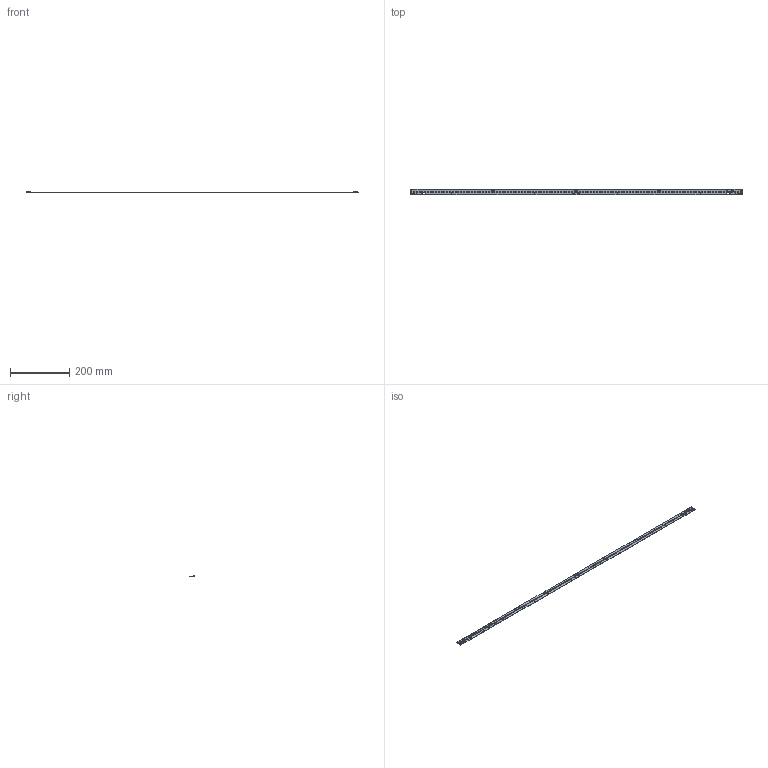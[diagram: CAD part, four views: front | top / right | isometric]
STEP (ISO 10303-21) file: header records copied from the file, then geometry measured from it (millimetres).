
FILE_DESCRIPTION(('Creo Elements/Direct Modeling STEP Export'),'2;1');
FILE_NAME('3D-Model_WU-M-708-TC-B2B.stp','2023-03-28T14:51:52',(''),(''),'PTC Creo Elements/Direct Modeling STEP processor for AP214 (Solid Model)','PTC Creo Elements/Direct Modeling 19.0E 27-Jun-2016 (C) Parametric Technology GmbH','');
FILE_SCHEMA(('AUTOMOTIVE_DESIGN { 1 0 10303 214 1 1 1 1 }'));
Length unit declared in the file: millimetre
Products named in the file (383): CON02_PRT_6.PRT.6; CON02_PRT_6_1.PRT; CONE0101_ASM.ASM; LED-DIODA_-1295330_PRT.PRT; LED-DIODA_-1329870_ASM.ASM; LED-DIODA__10_ASM.ASM; LED-DIODA__100_ASM.ASM; LED-DIODA__101_ASM.ASM; LED-DIODA__102_ASM.ASM; LED-DIODA__103_ASM.ASM; LED-DIODA__104_ASM.ASM; LED-DIODA__105_ASM.ASM; LED-DIODA__106_ASM.ASM; LED-DIODA__107_ASM.ASM; LED-DIODA__108_ASM.ASM; LED-DIODA__109_ASM.ASM; LED-DIODA__11_ASM.ASM; LED-DIODA__110_ASM.ASM; LED-DIODA__111_ASM.ASM; LED-DIODA__112_ASM.ASM; LED-DIODA__113_ASM.ASM; LED-DIODA__114_ASM.ASM; LED-DIODA__115_ASM.ASM; LED-DIODA__116_ASM.ASM; LED-DIODA__117_ASM.ASM; LED-DIODA__118_ASM.ASM; LED-DIODA__119_ASM.ASM; LED-DIODA__12_ASM.ASM; LED-DIODA__120_ASM.ASM; LED-DIODA__13_ASM.ASM; LED-DIODA__14_ASM.ASM; LED-DIODA__15_ASM.ASM; LED-DIODA__16_ASM.ASM; LED-DIODA__17_ASM.ASM; LED-DIODA__18_ASM.ASM; LED-DIODA__19_ASM.ASM; LED-DIODA__2_ASM.ASM; LED-DIODA__20_ASM.ASM; LED-DIODA__21_ASM.ASM; LED-DIODA__22_ASM.ASM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
Assembly tree (501 placements, depth 4):
  3D-MODEL_WU-M-708-TC_-_COPY.stp
    3D-MODEL_WU-M-708-TC_STP.ASM
      P1_PRT.PRT
      PLATE_BASE_WU-M-708_99-7330_ASM.ASM
        PLATE_BASE_WU-M-708_99-6830_PRT.PRT
      PLATE_BASE_WU-M-708_98-12430_AS.ASM
        PLATE_BASE_WU-M-708_98-11980_PR.PRT
      PLATE_BASE_WU-M-708_97-17920_AS.ASM
        PLATE_BASE_WU-M-708_97-17460_PR.PRT
      PLATE_BASE_WU-M-708_96-23330_AS.ASM
        PLATE_BASE_WU-M-708_96-22870_PR.PRT
      PLATE_BASE_WU-M-708_95-35950_AS.ASM
        PLATE_BASE_WU-M-708_95-35320_PR.PRT
      PLATE_BASE_WU-M-708_94-46050_AS.ASM
        PLATE_BASE_WU-M-708_94-45480_PR.PRT
      PLATE_BASE_WU-M-708_93-57400_AS.ASM
        PLATE_BASE_WU-M-708_93-56800_PR.PRT
      PLATE_BASE_WU-M-708_92-66250_AS.ASM
        PLATE_BASE_WU-M-708_92-65710_PR.PRT
      PLATE_BASE_WU-M-708_91-76350_AS.ASM
        PLATE_BASE_WU-M-708_91-75780_PR.PRT
      PLATE_BASE_WU-M-708_90-82680_AS.ASM
        PLATE_BASE_WU-M-708_90-82200_PR.PRT
      PLATE_BASE_WU-M-708_9-95300_ASM.ASM
        PLATE_BASE_WU-M-708_9-94670_PRT.PRT
      PLATE_BASE_WU-M-708_89-101120_A.ASM
        PLATE_BASE_WU-M-708_89-100650_P.PRT
      PLATE_BASE_WU-M-708_88-120060_A.ASM
        PLATE_BASE_WU-M-708_88-119270_P.PRT
      PLATE_BASE_WU-M-708_87-127250_A.ASM
        PLATE_BASE_WU-M-708_87-126750_P.PRT
      PLATE_BASE_WU-M-708_86-138210_A.ASM
        PLATE_BASE_WU-M-708_86-137620_P.PRT
      PLATE_BASE_WU-M-708_85-144540_A.ASM
        PLATE_BASE_WU-M-708_85-144060_P.PRT
      PLATE_BASE_WU-M-708_84-152120_A.ASM
        PLATE_BASE_WU-M-708_84-151610_P.PRT
      PLATE_BASE_WU-M-708_83-156380_A.ASM
        PLATE_BASE_WU-M-708_83-155950_P.PRT
      PLATE_BASE_WU-M-708_82-163960_A.ASM
        PLATE_BASE_WU-M-708_82-163450_P.PRT
      PLATE_BASE_WU-M-708_81-169780_A.ASM
        PLATE_BASE_WU-M-708_81-169310_P.PRT
      PLATE_BASE_WU-M-708_80-175270_A.ASM
        PLATE_BASE_WU-M-708_80-174810_P.PRT
      PLATE_BASE_WU-M-708_8-190350_AS.ASM
        PLATE_BASE_WU-M-708_8-189660_PR.PRT
      PLATE_BASE_WU-M-708_79-197500_A.ASM
        PLATE_BASE_WU-M-708_79-197000_P.PRT
      PLATE_BASE_WU-M-708_78-201740_A.ASM
        PLATE_BASE_WU-M-708_78-201310_P.PRT
      PLATE_BASE_WU-M-708_77-212680_A.ASM
        PLATE_BASE_WU-M-708_77-212090_P.PRT
      PLATE_BASE_WU-M-708_76-226530_A.ASM
        PLATE_BASE_WU-M-708_76-225870_P.PRT
      PLATE_BASE_WU-M-708_75-239110_A.ASM
        PLATE_BASE_WU-M-708_75-238480_P.PRT
      PLATE_BASE_WU-M-708_74-244600_A.ASM
        PLATE_BASE_WU-M-708_74-244140_P.PRT
      PLATE_BASE_WU-M-708_73-250090_A.ASM
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Bounding box: 1119 x 20 x 5.5 mm (x, y, z)
Volume: 23049.7 mm3; surface area: 50714 mm2
Topology: 250 solids, 250 shells, 12420 faces, 34184 edges, 22626 vertices
Faces by surface type: plane 9657, cylinder 2759, sphere 4
Entity records: 138902 total; most frequent: CARTESIAN_POINT 18803, DIRECTION 18218, ORIENTED_EDGE 17904, EDGE_CURVE 8952, VECTOR 7204, LINE 7204, VERTEX_POINT 5966, AXIS2_PLACEMENT_3D 5507
